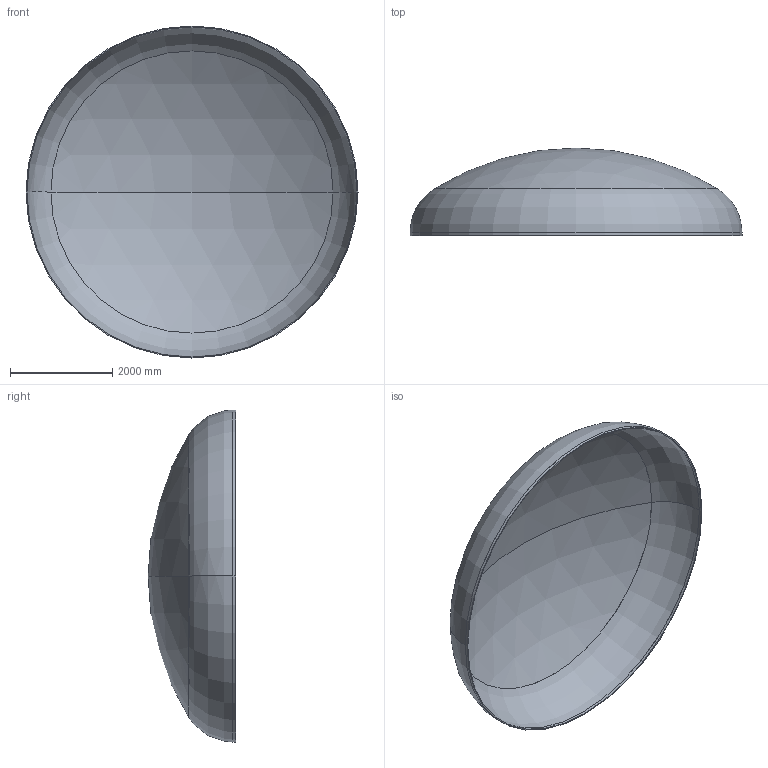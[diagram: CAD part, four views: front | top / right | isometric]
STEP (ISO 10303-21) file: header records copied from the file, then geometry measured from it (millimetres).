
FILE_DESCRIPTION (( 'STEP AP203' ), '1' );
FILE_NAME ('DIN 28013 Korbbogenform_-_Boden DIN 28013 - 6500 x 55 - I - s=18.step', '2016-07-04T10:40:17', ( '' ), ( '' ), 'SwSTEP 2.0', 'SolidWorks 2013', '' );
FILE_SCHEMA (( 'CONFIG_CONTROL_DESIGN' ));
Length unit declared in the file: millimetre
Products named in the file (1): DIN 28013 Korbbogenform_-_Boden DIN 28013 - 6500 x 55 - I - s=18
Bounding box: 6500 x 1715.17 x 6500 mm (x, y, z)
Volume: 844284167.9 mm3; surface area: 94176540.7 mm2
Topology: 1 solids, 1 shells, 13 faces, 24 edges, 14 vertices
Faces by surface type: torus 4, cylinder 4, sphere 4, plane 1
Entity records: 407 total; most frequent: DIRECTION 72, CARTESIAN_POINT 52, ORIENTED_EDGE 48, AXIS2_PLACEMENT_3D 34, EDGE_CURVE 24, CIRCLE 20, VERTEX_POINT 14, EDGE_LOOP 14
